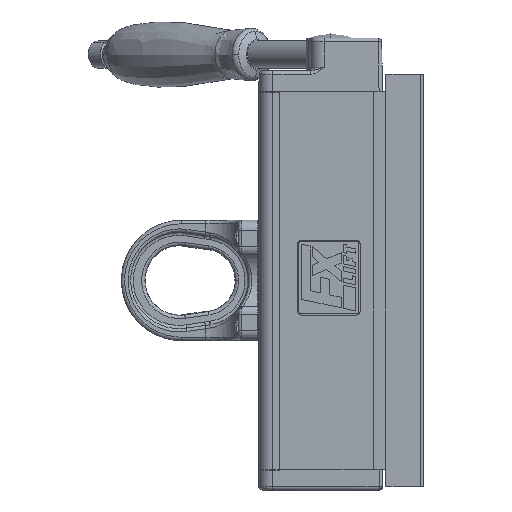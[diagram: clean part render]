
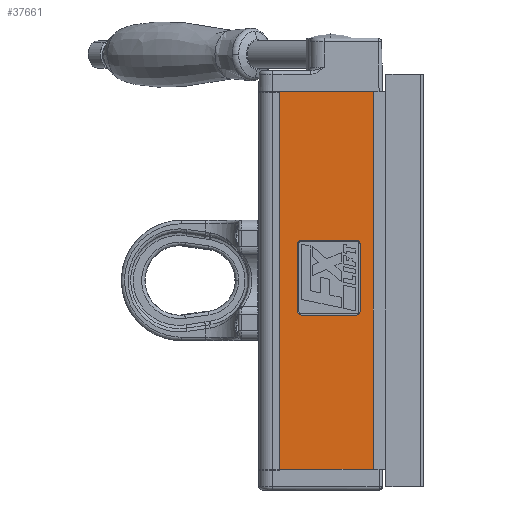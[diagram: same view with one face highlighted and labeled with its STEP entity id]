
A CAD part, left-side view. The second image highlights one B-rep face of the part: STEP entity #37661.
In plain terms, the highlighted planar face has unit normal (-1, 0, 0).
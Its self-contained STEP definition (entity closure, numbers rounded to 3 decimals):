
#297 = EDGE_CURVE ( 'NONE', #26430, #28484, #14744, .T. ) ;
#877 = LINE ( 'NONE', #58730, #43905 ) ;
#1639 = CARTESIAN_POINT ( 'NONE',  ( -42., -16.964, 0. ) ) ;
#3408 = CARTESIAN_POINT ( 'NONE',  ( -42., -16.964, -17.758 ) ) ;
#4106 = FACE_BOUND ( 'NONE', #60544, .T. ) ;
#5612 = ORIENTED_EDGE ( 'NONE', *, *, #35716, .F. ) ;
#6842 = LINE ( 'NONE', #28032, #66464 ) ;
#7314 = DIRECTION ( 'NONE',  ( 0., 0., -1. ) ) ;
#7366 = VECTOR ( 'NONE', #7314, 1000. ) ;
#7547 = AXIS2_PLACEMENT_3D ( 'NONE', #37903, #54770, #21174 ) ;
#8004 = VERTEX_POINT ( 'NONE', #64355 ) ;
#10916 = EDGE_CURVE ( 'NONE', #47978, #26357, #52431, .T. ) ;
#11001 = CARTESIAN_POINT ( 'NONE',  ( -42., -15.871, 23.532 ) ) ;
#11234 = CARTESIAN_POINT ( 'NONE',  ( -42., -16.964, 22.44 ) ) ;
#11529 = LINE ( 'NONE', #27642, #71123 ) ;
#13435 = CARTESIAN_POINT ( 'NONE',  ( -42., -16.964, -17.758 ) ) ;
#13948 = ORIENTED_EDGE ( 'NONE', *, *, #67125, .T. ) ;
#14024 = VERTEX_POINT ( 'NONE', #49321 ) ;
#14711 = CARTESIAN_POINT ( 'NONE',  ( -42., -15.871, -20.187 ) ) ;
#14744 = LINE ( 'NONE', #21425, #67285 ) ;
#15181 = CARTESIAN_POINT ( 'NONE',  ( -42., 30., 110. ) ) ;
#15260 = ORIENTED_EDGE ( 'NONE', *, *, #16038, .T. ) ;
#16038 = EDGE_CURVE ( 'NONE', #33353, #39050, #17802, .T. ) ;
#16241 = CARTESIAN_POINT ( 'NONE',  ( -42., -16.964, 21.104 ) ) ;
#16656 = ORIENTED_EDGE ( 'NONE', *, *, #49988, .T. ) ;
#16881 = CARTESIAN_POINT ( 'NONE',  ( -42., -14.535, 23.532 ) ) ;
#17140 = VERTEX_POINT ( 'NONE', #65170 ) ;
#17787 = CARTESIAN_POINT ( 'NONE',  ( -42., 17.041, 23.532 ) ) ;
#17802 = B_SPLINE_CURVE_WITH_KNOTS ( 'NONE', 3,
 ( #16881, #11001, #11234, #22494 ),
 .UNSPECIFIED., .F., .F.,
 ( 4, 4 ),
 ( 0.333, 0.444 ),
 .UNSPECIFIED. ) ;
#18195 = EDGE_CURVE ( 'NONE', #17140, #18740, #63617, .T. ) ;
#18553 = ORIENTED_EDGE ( 'NONE', *, *, #10916, .T. ) ;
#18659 = ORIENTED_EDGE ( 'NONE', *, *, #18195, .T. ) ;
#18740 = VERTEX_POINT ( 'NONE', #17787 ) ;
#18983 = DIRECTION ( 'NONE',  ( 0., 0., -1. ) ) ;
#19808 = CARTESIAN_POINT ( 'NONE',  ( -42., 19.47, 22.44 ) ) ;
#20160 = VERTEX_POINT ( 'NONE', #31270 ) ;
#20347 = CARTESIAN_POINT ( 'NONE',  ( -42., -14.535, -20.187 ) ) ;
#21174 = DIRECTION ( 'NONE',  ( 0., 0., -1. ) ) ;
#21425 = CARTESIAN_POINT ( 'NONE',  ( -42., -25.5, 110. ) ) ;
#22494 = CARTESIAN_POINT ( 'NONE',  ( -42., -16.964, 21.104 ) ) ;
#22992 = LINE ( 'NONE', #66361, #52841 ) ;
#26089 = VECTOR ( 'NONE', #48961, 1000. ) ;
#26357 = VERTEX_POINT ( 'NONE', #42183 ) ;
#26430 = VERTEX_POINT ( 'NONE', #65645 ) ;
#27642 = CARTESIAN_POINT ( 'NONE',  ( -42., 30., 110. ) ) ;
#28032 = CARTESIAN_POINT ( 'NONE',  ( -42., 30., 110. ) ) ;
#28134 = ORIENTED_EDGE ( 'NONE', *, *, #56046, .T. ) ;
#28252 = EDGE_CURVE ( 'NONE', #55941, #20160, #11529, .T. ) ;
#28484 = VERTEX_POINT ( 'NONE', #37714 ) ;
#30795 = DIRECTION ( 'NONE',  ( 0., -1., 0. ) ) ;
#31270 = CARTESIAN_POINT ( 'NONE',  ( -42., 30., -110. ) ) ;
#32830 = CARTESIAN_POINT ( 'NONE',  ( -42., 19.47, -17.758 ) ) ;
#32847 = DIRECTION ( 'NONE',  ( 0., -1., 0. ) ) ;
#33353 = VERTEX_POINT ( 'NONE', #45727 ) ;
#35716 = EDGE_CURVE ( 'NONE', #55941, #26430, #6842, .T. ) ;
#36772 = CARTESIAN_POINT ( 'NONE',  ( -42., 17.041, 23.532 ) ) ;
#37661 = ADVANCED_FACE ( 'NONE', ( #63765, #4106 ), #64184, .F. ) ;
#37714 = CARTESIAN_POINT ( 'NONE',  ( -42., -25.5, -110. ) ) ;
#37903 = CARTESIAN_POINT ( 'NONE',  ( -42., 30., 110. ) ) ;
#38700 = EDGE_LOOP ( 'NONE', ( #55288, #60827, #5612, #60479 ) ) ;
#39050 = VERTEX_POINT ( 'NONE', #16241 ) ;
#41015 = LINE ( 'NONE', #71201, #26089 ) ;
#42183 = CARTESIAN_POINT ( 'NONE',  ( -42., -14.535, -20.187 ) ) ;
#42559 = EDGE_CURVE ( 'NONE', #8004, #17140, #42577, .T. ) ;
#42577 = LINE ( 'NONE', #58239, #70562 ) ;
#43905 = VECTOR ( 'NONE', #30795, 1000. ) ;
#44988 = ORIENTED_EDGE ( 'NONE', *, *, #42559, .T. ) ;
#45727 = CARTESIAN_POINT ( 'NONE',  ( -42., -14.535, 23.532 ) ) ;
#47755 = CARTESIAN_POINT ( 'NONE',  ( -42., 19.47, 21.104 ) ) ;
#47978 = VERTEX_POINT ( 'NONE', #13435 ) ;
#48961 = DIRECTION ( 'NONE',  ( 0., 1., 0. ) ) ;
#49321 = CARTESIAN_POINT ( 'NONE',  ( -42., 17.041, -20.187 ) ) ;
#49988 = EDGE_CURVE ( 'NONE', #26357, #14024, #41015, .T. ) ;
#52431 = B_SPLINE_CURVE_WITH_KNOTS ( 'NONE', 3,
 ( #3408, #59349, #14711, #20347 ),
 .UNSPECIFIED., .F., .F.,
 ( 4, 4 ),
 ( 0.556, 0.667 ),
 .UNSPECIFIED. ) ;
#52841 = VECTOR ( 'NONE', #32847, 1000. ) ;
#54770 = DIRECTION ( 'NONE',  ( 1., 0., 0. ) ) ;
#55102 = CARTESIAN_POINT ( 'NONE',  ( -42., 17.041, -20.187 ) ) ;
#55288 = ORIENTED_EDGE ( 'NONE', *, *, #72448, .T. ) ;
#55941 = VERTEX_POINT ( 'NONE', #15181 ) ;
#56046 = EDGE_CURVE ( 'NONE', #14024, #8004, #59814, .T. ) ;
#57288 = EDGE_CURVE ( 'NONE', #18740, #33353, #22992, .T. ) ;
#57980 = ORIENTED_EDGE ( 'NONE', *, *, #57288, .T. ) ;
#58239 = CARTESIAN_POINT ( 'NONE',  ( -42., 19.47, 0. ) ) ;
#58730 = CARTESIAN_POINT ( 'NONE',  ( -42., 30., -110. ) ) ;
#59349 = CARTESIAN_POINT ( 'NONE',  ( -42., -16.964, -19.094 ) ) ;
#59814 = B_SPLINE_CURVE_WITH_KNOTS ( 'NONE', 3,
 ( #55102, #60749, #66344, #32830 ),
 .UNSPECIFIED., .F., .F.,
 ( 4, 4 ),
 ( 0.778, 1. ),
 .UNSPECIFIED. ) ;
#60479 = ORIENTED_EDGE ( 'NONE', *, *, #28252, .T. ) ;
#60544 = EDGE_LOOP ( 'NONE', ( #28134, #44988, #18659, #57980, #15260, #13948, #18553, #16656 ) ) ;
#60749 = CARTESIAN_POINT ( 'NONE',  ( -42., 18.377, -20.187 ) ) ;
#60827 = ORIENTED_EDGE ( 'NONE', *, *, #297, .F. ) ;
#63617 = B_SPLINE_CURVE_WITH_KNOTS ( 'NONE', 3,
 ( #47755, #19808, #70253, #36772 ),
 .UNSPECIFIED., .F., .F.,
 ( 4, 4 ),
 ( 0.111, 0.222 ),
 .UNSPECIFIED. ) ;
#63765 = FACE_OUTER_BOUND ( 'NONE', #38700, .T. ) ;
#63856 = DIRECTION ( 'NONE',  ( 0., 0., 1. ) ) ;
#64184 = PLANE ( 'NONE',  #7547 ) ;
#64355 = CARTESIAN_POINT ( 'NONE',  ( -42., 19.47, -17.758 ) ) ;
#65170 = CARTESIAN_POINT ( 'NONE',  ( -42., 19.47, 21.104 ) ) ;
#65645 = CARTESIAN_POINT ( 'NONE',  ( -42., -25.5, 110. ) ) ;
#66344 = CARTESIAN_POINT ( 'NONE',  ( -42., 19.47, -19.094 ) ) ;
#66361 = CARTESIAN_POINT ( 'NONE',  ( -42., 0., 23.532 ) ) ;
#66464 = VECTOR ( 'NONE', #67194, 1000. ) ;
#66825 = DIRECTION ( 'NONE',  ( 0., 0., -1. ) ) ;
#66977 = LINE ( 'NONE', #1639, #7366 ) ;
#67125 = EDGE_CURVE ( 'NONE', #39050, #47978, #66977, .T. ) ;
#67194 = DIRECTION ( 'NONE',  ( 0., -1., 0. ) ) ;
#67285 = VECTOR ( 'NONE', #18983, 1000. ) ;
#70253 = CARTESIAN_POINT ( 'NONE',  ( -42., 18.377, 23.532 ) ) ;
#70562 = VECTOR ( 'NONE', #63856, 1000. ) ;
#71123 = VECTOR ( 'NONE', #66825, 1000. ) ;
#71201 = CARTESIAN_POINT ( 'NONE',  ( -42., 0., -20.187 ) ) ;
#72448 = EDGE_CURVE ( 'NONE', #20160, #28484, #877, .T. ) ;
